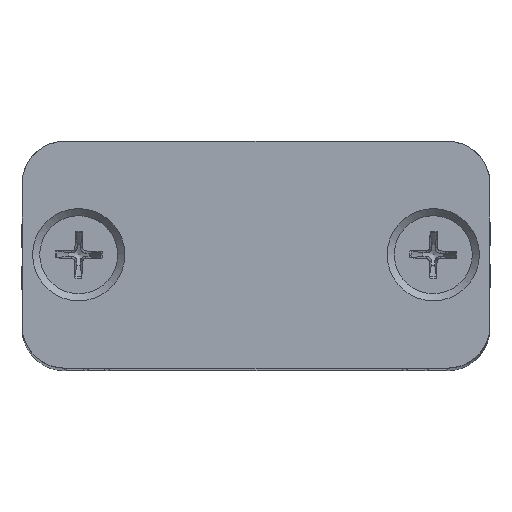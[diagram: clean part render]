
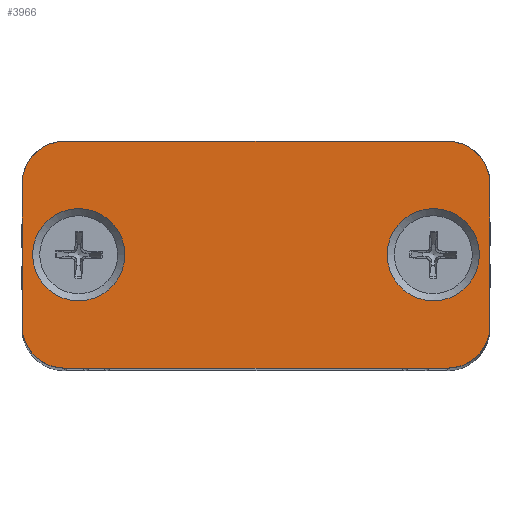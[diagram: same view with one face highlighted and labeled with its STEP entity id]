
A CAD part, top view. The second image highlights one B-rep face of the part: STEP entity #3966.
In plain terms, the highlighted planar face has unit normal (0, 0, 1).
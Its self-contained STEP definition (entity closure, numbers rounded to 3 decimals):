
#3576=CARTESIAN_POINT('',(-29.557,9.942,2.0));
#3577=VERTEX_POINT('',#3576);
#3578=CARTESIAN_POINT('',(-32.807,9.942,2.0));
#3579=DIRECTION('',(0.0,0.0,-1.0));
#3580=DIRECTION('',(1.0,0.0,0.0));
#3581=AXIS2_PLACEMENT_3D('',#3578,#3579,#3580);
#3582=CIRCLE('',#3581,3.25);
#3583=EDGE_CURVE('',#3577,#3577,#3582,.T.);
#3624=CARTESIAN_POINT('',(-4.557,9.942,2.0));
#3625=VERTEX_POINT('',#3624);
#3626=CARTESIAN_POINT('',(-7.807,9.942,2.0));
#3627=DIRECTION('',(0.0,0.0,-1.0));
#3628=DIRECTION('',(1.0,0.0,0.0));
#3629=AXIS2_PLACEMENT_3D('',#3626,#3627,#3628);
#3630=CIRCLE('',#3629,3.25);
#3631=EDGE_CURVE('',#3625,#3625,#3630,.T.);
#3672=CARTESIAN_POINT('',(-33.807,17.942,2.0));
#3673=VERTEX_POINT('',#3672);
#3674=CARTESIAN_POINT('',(-6.807,17.942,2.0));
#3675=VERTEX_POINT('',#3674);
#3676=CARTESIAN_POINT('',(-33.807,17.942,2.0));
#3677=DIRECTION('',(1.0,0.0,0.0));
#3678=VECTOR('',#3677,27.0);
#3679=LINE('',#3676,#3678);
#3680=EDGE_CURVE('',#3673,#3675,#3679,.T.);
#3712=CARTESIAN_POINT('',(-3.807,14.942,2.0));
#3713=VERTEX_POINT('',#3712);
#3714=CARTESIAN_POINT('',(-6.807,14.942,2.0));
#3715=DIRECTION('',(0.0,0.0,-1.0));
#3716=DIRECTION('',(1.0,0.0,0.0));
#3717=AXIS2_PLACEMENT_3D('',#3714,#3715,#3716);
#3718=CIRCLE('',#3717,3.0);
#3719=EDGE_CURVE('',#3675,#3713,#3718,.T.);
#3745=CARTESIAN_POINT('',(-3.807,4.942,2.0));
#3746=VERTEX_POINT('',#3745);
#3747=CARTESIAN_POINT('',(-3.807,14.942,2.0));
#3748=DIRECTION('',(0.0,-1.0,0.0));
#3749=VECTOR('',#3748,10.);
#3750=LINE('',#3747,#3749);
#3751=EDGE_CURVE('',#3713,#3746,#3750,.T.);
#3776=CARTESIAN_POINT('',(-6.807,1.942,2.0));
#3777=VERTEX_POINT('',#3776);
#3778=CARTESIAN_POINT('',(-6.807,4.942,2.0));
#3779=DIRECTION('',(0.0,0.0,-1.0));
#3780=DIRECTION('',(0.0,-1.0,0.0));
#3781=AXIS2_PLACEMENT_3D('',#3778,#3779,#3780);
#3782=CIRCLE('',#3781,3.0);
#3783=EDGE_CURVE('',#3746,#3777,#3782,.T.);
#3809=CARTESIAN_POINT('',(-33.807,1.942,2.0));
#3810=VERTEX_POINT('',#3809);
#3811=CARTESIAN_POINT('',(-6.807,1.942,2.0));
#3812=DIRECTION('',(-1.0,0.0,0.0));
#3813=VECTOR('',#3812,27.0);
#3814=LINE('',#3811,#3813);
#3815=EDGE_CURVE('',#3777,#3810,#3814,.T.);
#3840=CARTESIAN_POINT('',(-36.807,4.942,2.0));
#3841=VERTEX_POINT('',#3840);
#3842=CARTESIAN_POINT('',(-33.807,4.942,2.0));
#3843=DIRECTION('',(0.0,0.0,-1.0));
#3844=DIRECTION('',(-1.0,0.0,0.0));
#3845=AXIS2_PLACEMENT_3D('',#3842,#3843,#3844);
#3846=CIRCLE('',#3845,3.0);
#3847=EDGE_CURVE('',#3810,#3841,#3846,.T.);
#3873=CARTESIAN_POINT('',(-36.807,14.942,2.0));
#3874=VERTEX_POINT('',#3873);
#3875=CARTESIAN_POINT('',(-36.807,4.942,2.0));
#3876=DIRECTION('',(0.0,1.0,0.0));
#3877=VECTOR('',#3876,10.);
#3878=LINE('',#3875,#3877);
#3879=EDGE_CURVE('',#3841,#3874,#3878,.T.);
#3904=CARTESIAN_POINT('',(-33.807,14.942,2.0));
#3905=DIRECTION('',(0.0,0.0,-1.0));
#3906=DIRECTION('',(0.0,1.0,0.0));
#3907=AXIS2_PLACEMENT_3D('',#3904,#3905,#3906);
#3908=CIRCLE('',#3907,3.0);
#3909=EDGE_CURVE('',#3874,#3673,#3908,.T.);
#3945=CARTESIAN_POINT('',(-20.307,9.942,2.0));
#3946=DIRECTION('',(0.0,0.0,1.0));
#3947=DIRECTION('',(1.0,0.0,0.0));
#3948=AXIS2_PLACEMENT_3D('',#3945,#3946,#3947);
#3949=PLANE('',#3948);
#3950=ORIENTED_EDGE('',*,*,#3680,.F.);
#3951=ORIENTED_EDGE('',*,*,#3909,.F.);
#3952=ORIENTED_EDGE('',*,*,#3879,.F.);
#3953=ORIENTED_EDGE('',*,*,#3847,.F.);
#3954=ORIENTED_EDGE('',*,*,#3815,.F.);
#3955=ORIENTED_EDGE('',*,*,#3783,.F.);
#3956=ORIENTED_EDGE('',*,*,#3751,.F.);
#3957=ORIENTED_EDGE('',*,*,#3719,.F.);
#3958=EDGE_LOOP('',(#3950,#3951,#3952,#3953,#3954,#3955,#3956,#3957));
#3959=FACE_OUTER_BOUND('',#3958,.T.);
#3960=ORIENTED_EDGE('',*,*,#3583,.T.);
#3961=EDGE_LOOP('',(#3960));
#3962=FACE_BOUND('',#3961,.T.);
#3963=ORIENTED_EDGE('',*,*,#3631,.T.);
#3964=EDGE_LOOP('',(#3963));
#3965=FACE_BOUND('',#3964,.T.);
#3966=ADVANCED_FACE('',(#3959,#3962,#3965),#3949,.T.);
